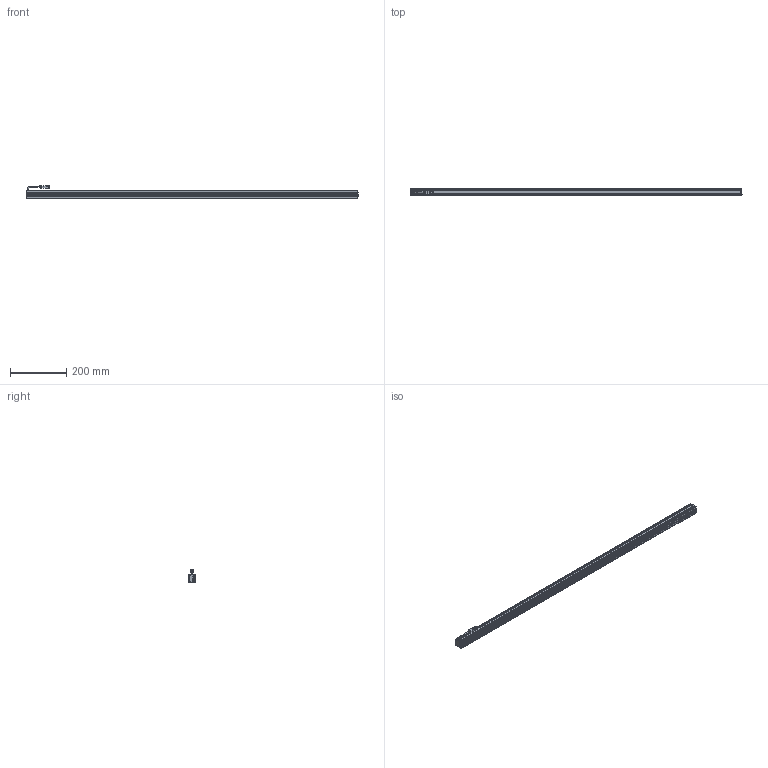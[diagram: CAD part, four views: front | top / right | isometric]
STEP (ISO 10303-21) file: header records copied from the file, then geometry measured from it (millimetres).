
FILE_DESCRIPTION (( 'STEP AP203' ), '1' );
FILE_NAME ('CK-BL118228.STEP', '2026-01-02T08:23:54', ( '' ), ( '' ), 'SwSTEP 2.0', 'SolidWorks 2022', '' );
FILE_SCHEMA (( 'CONFIG_CONTROL_DESIGN' ));
Length unit declared in the file: millimetre
Products named in the file (6): 十字沉头螺丝 M2x10; 光源线-01; CK-BL118228-001A; CK-BL118228-003A; CK-BL118228-002A; CK-BL118228
Assembly tree (11 placements, depth 2):
  CK-BL118228
    CK-BL118228-001A
    CK-BL118228-002A  x2
    CK-BL118228-003A
    光源线-01
    十字沉头螺丝 M2x10  x6
Bounding box: 1182 x 27 x 47.34 mm (x, y, z)
Volume: 376729.5 mm3; surface area: 329492.1 mm2
Topology: 13 solids, 13 shells, 575 faces, 1494 edges, 950 vertices
Faces by surface type: plane 337, cylinder 172, cone 46, bspline 20
Entity records: 13997 total; most frequent: CARTESIAN_POINT 2782, ORIENTED_EDGE 2202, DIRECTION 2163, EDGE_CURVE 1101, LINE 781, VECTOR 781, VERTEX_POINT 714, AXIS2_PLACEMENT_3D 691
